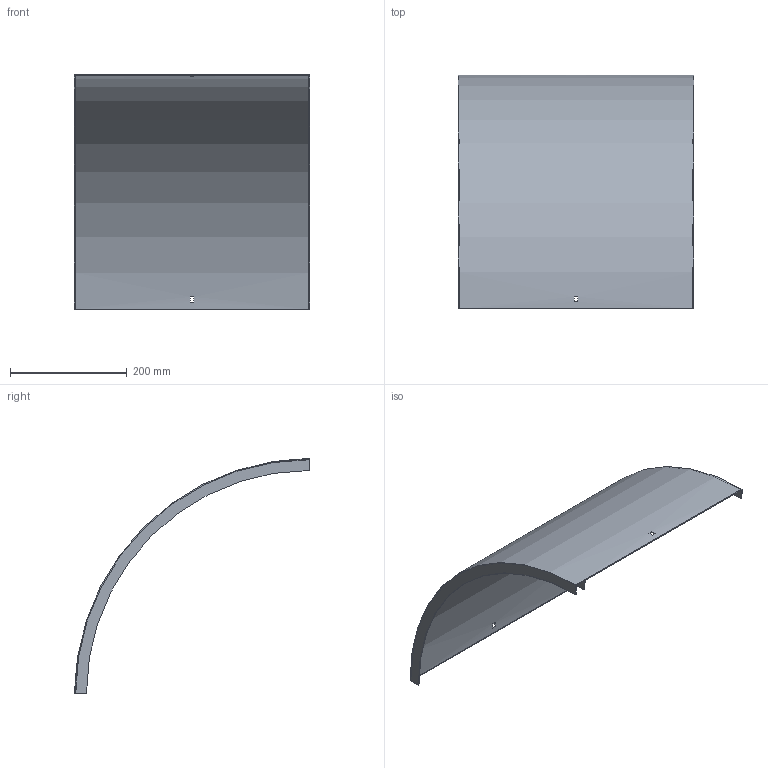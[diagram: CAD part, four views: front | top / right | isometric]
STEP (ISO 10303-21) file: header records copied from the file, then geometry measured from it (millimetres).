
FILE_DESCRIPTION (( 'STEP AP214' ), '1' );
FILE_NAME ('B2_33N3D400.step', '2025-02-21T10:47:05', ( '' ), ( '' ), 'SwSTEP 2.0', 'SolidWorks 2023', '' );
FILE_SCHEMA (( 'AUTOMOTIVE_DESIGN' ));
Length unit declared in the file: millimetre
Products named in the file (1): B2_33N3D400
Bounding box: 403 x 401.5 x 401.5 mm (x, y, z)
Volume: 414420.3 mm3; surface area: 555774.8 mm2
Topology: 1 solids, 1 shells, 18 faces, 48 edges, 32 vertices
Faces by surface type: plane 14, cylinder 4
Entity records: 599 total; most frequent: DIRECTION 102, CARTESIAN_POINT 99, ORIENTED_EDGE 96, EDGE_CURVE 48, AXIS2_PLACEMENT_3D 35, VERTEX_POINT 32, VECTOR 32, LINE 32
